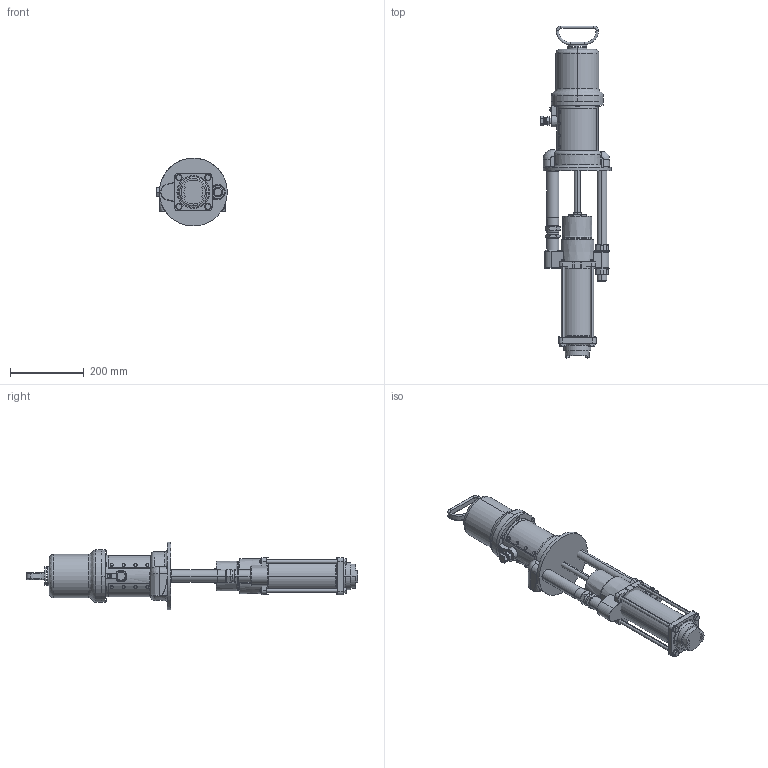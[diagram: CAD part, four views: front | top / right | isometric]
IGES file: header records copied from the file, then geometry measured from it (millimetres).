
Start section:  PTC IGES file: 223186-en-m.igs
Global section: file name: 223186-en-m.igs; native system: Creo Parametric by PTC Inc.; preprocessor: 2021072; author: qtmwp1; organization: Unknown; date: 20220214.110009; units: inch
Bounding box: 191.44 x 900.89 x 183.84 mm (x, y, z)
Surface area: 544097.9 mm2 (no closed solid volume)
Topology: 0 solids, 0 shells, 541 faces, 2489 edges, 2487 vertices
Faces by surface type: revolution 307, bspline 234
